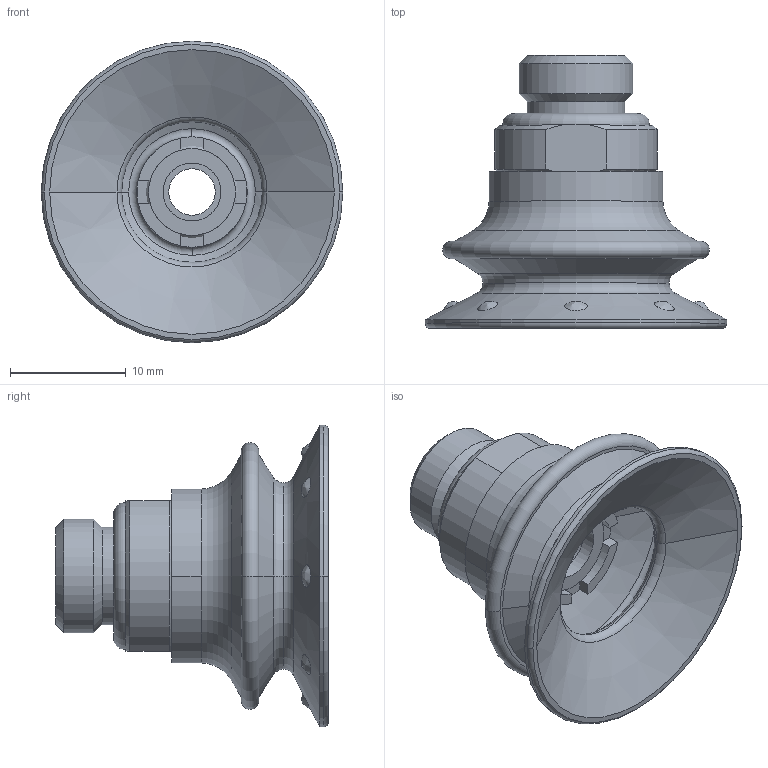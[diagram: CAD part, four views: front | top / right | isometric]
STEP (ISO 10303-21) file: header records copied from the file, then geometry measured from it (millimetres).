
FILE_DESCRIPTION (( 'STEP AP214' ), '1' );
FILE_NAME ('SB25P-60G-G18MS.STEP', '2026-03-17T14:15:07', ( '' ), ( '' ), 'SwSTEP 2.0', 'SolidWorks 2025', '' );
FILE_SCHEMA (( 'AUTOMOTIVE_DESIGN' ));
Length unit declared in the file: inch
Products named in the file (3): SB25P-60G-G18MS; SB25P-60G; 401.011
Assembly tree (2 placements, depth 2):
  SB25P-60G-G18MS
    SB25P-60G
    401.011
Bounding box: 26 x 23.52 x 26 mm (x, y, z)
Volume: 2680.9 mm3; surface area: 3884.6 mm2
Topology: 3 solids, 3 shells, 100 faces, 230 edges, 148 vertices
Faces by surface type: plane 30, torus 22, cylinder 21, cone 19, bspline 8
Full cylindrical faces by diameter (mm): 4 x1, 5 x1, 6 x1, 8.4 x1, 8.5 x1, 9.8 x1, 12.7 x1
Entity records: 3581 total; most frequent: CARTESIAN_POINT 1239, DIRECTION 504, ORIENTED_EDGE 426, AXIS2_PLACEMENT_3D 220, EDGE_CURVE 213, VERTEX_POINT 145, EDGE_LOOP 130, CIRCLE 123
